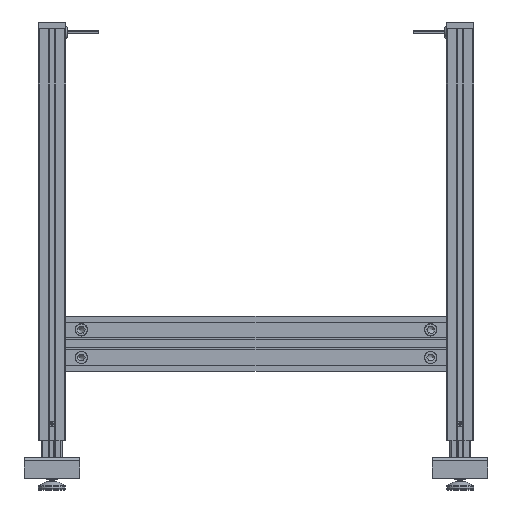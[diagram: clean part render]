
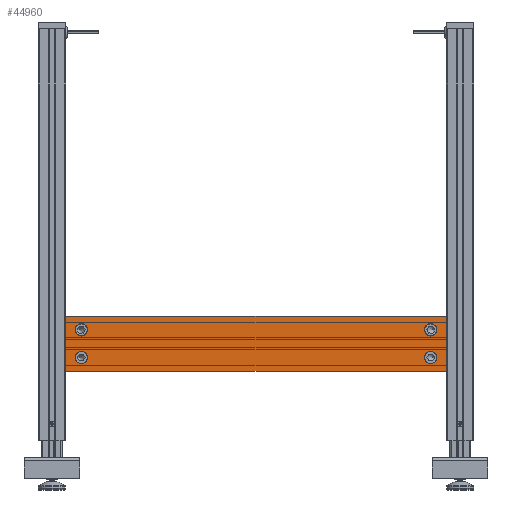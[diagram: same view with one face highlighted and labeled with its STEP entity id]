
A CAD part, left-side view. The second image highlights one B-rep face of the part: STEP entity #44960.
In plain terms, the highlighted planar face has unit normal (-1, 0, 0) as drawn and (1, 0, 0) by its records, which use the part's own axes.
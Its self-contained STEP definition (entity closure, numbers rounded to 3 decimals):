
#3013=CIRCLE('',#57402,9.);
#3014=CIRCLE('',#57403,9.);
#3015=CIRCLE('',#57404,9.);
#3016=CIRCLE('',#57405,9.);
#14815=ORIENTED_EDGE('',*,*,#22079,.T.);
#14816=ORIENTED_EDGE('',*,*,#22080,.T.);
#14817=ORIENTED_EDGE('',*,*,#22081,.T.);
#14818=ORIENTED_EDGE('',*,*,#22082,.T.);
#14819=ORIENTED_EDGE('',*,*,#22083,.T.);
#14820=ORIENTED_EDGE('',*,*,#22084,.F.);
#14821=ORIENTED_EDGE('',*,*,#22085,.T.);
#14822=ORIENTED_EDGE('',*,*,#22086,.T.);
#22079=EDGE_CURVE('',#26722,#26722,#3013,.T.);
#22080=EDGE_CURVE('',#26723,#26723,#3014,.T.);
#22081=EDGE_CURVE('',#26724,#26725,#31283,.T.);
#22082=EDGE_CURVE('',#26725,#26726,#31284,.T.);
#22083=EDGE_CURVE('',#26726,#26727,#31285,.T.);
#22084=EDGE_CURVE('',#26724,#26727,#31286,.T.);
#22085=EDGE_CURVE('',#26728,#26728,#3015,.T.);
#22086=EDGE_CURVE('',#26729,#26729,#3016,.T.);
#26722=VERTEX_POINT('',#83091);
#26723=VERTEX_POINT('',#83093);
#26724=VERTEX_POINT('',#83095);
#26725=VERTEX_POINT('',#83096);
#26726=VERTEX_POINT('',#83098);
#26727=VERTEX_POINT('',#83100);
#26728=VERTEX_POINT('',#83103);
#26729=VERTEX_POINT('',#83105);
#31283=LINE('',#83094,#35764);
#31284=LINE('',#83097,#35765);
#31285=LINE('',#83099,#35766);
#31286=LINE('',#83101,#35767);
#35764=VECTOR('',#69210,1000.);
#35765=VECTOR('',#69211,1000.);
#35766=VECTOR('',#69212,1000.);
#35767=VECTOR('',#69213,1000.);
#38356=EDGE_LOOP('',(#14815));
#38357=EDGE_LOOP('',(#14816));
#38358=EDGE_LOOP('',(#14817,#14818,#14819,#14820));
#38359=EDGE_LOOP('',(#14821));
#38360=EDGE_LOOP('',(#14822));
#40988=FACE_BOUND('',#38356,.T.);
#40989=FACE_BOUND('',#38357,.T.);
#40990=FACE_BOUND('',#38358,.T.);
#40991=FACE_BOUND('',#38359,.T.);
#40992=FACE_BOUND('',#38360,.T.);
#42748=PLANE('',#57401);
#44960=ADVANCED_FACE('',(#40988,#40989,#40990,#40991,#40992),#42748,.T.);
#57401=AXIS2_PLACEMENT_3D('',#83089,#69204,#69205);
#57402=AXIS2_PLACEMENT_3D('',#83090,#69206,#69207);
#57403=AXIS2_PLACEMENT_3D('',#83092,#69208,#69209);
#57404=AXIS2_PLACEMENT_3D('',#83102,#69214,#69215);
#57405=AXIS2_PLACEMENT_3D('',#83104,#69216,#69217);
#69204=DIRECTION('',(1.,0.,0.));
#69205=DIRECTION('',(0.,1.,0.));
#69206=DIRECTION('',(-1.,0.,0.));
#69207=DIRECTION('',(0.,0.,1.));
#69208=DIRECTION('',(-1.,0.,0.));
#69209=DIRECTION('',(0.,0.,1.));
#69210=DIRECTION('',(0.,1.,0.));
#69211=DIRECTION('',(0.,0.,1.));
#69212=DIRECTION('',(0.,-1.,0.));
#69213=DIRECTION('',(0.,0.,1.));
#69214=DIRECTION('',(-1.,0.,0.));
#69215=DIRECTION('',(0.,0.,1.));
#69216=DIRECTION('',(-1.,0.,0.));
#69217=DIRECTION('',(0.,0.,1.));
#83089=CARTESIAN_POINT('',(40.,80.,-1.));
#83090=CARTESIAN_POINT('',(40.,20.,527.5));
#83091=CARTESIAN_POINT('',(40.,20.,536.5));
#83092=CARTESIAN_POINT('',(40.,20.,22.5));
#83093=CARTESIAN_POINT('',(40.,20.,31.5));
#83094=CARTESIAN_POINT('',(40.,80.,0.));
#83095=CARTESIAN_POINT('',(40.,0.,0.));
#83096=CARTESIAN_POINT('',(40.,80.,0.));
#83097=CARTESIAN_POINT('',(40.,80.,-1.));
#83098=CARTESIAN_POINT('',(40.,80.,550.));
#83099=CARTESIAN_POINT('',(40.,40.,550.));
#83100=CARTESIAN_POINT('',(40.,0.,550.));
#83101=CARTESIAN_POINT('',(40.,0.,-1.));
#83102=CARTESIAN_POINT('',(40.,60.,22.5));
#83103=CARTESIAN_POINT('',(40.,60.,31.5));
#83104=CARTESIAN_POINT('',(40.,60.,527.5));
#83105=CARTESIAN_POINT('',(40.,60.,536.5));
